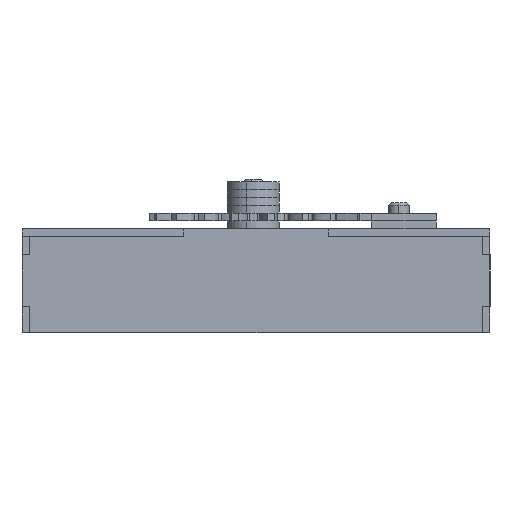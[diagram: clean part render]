
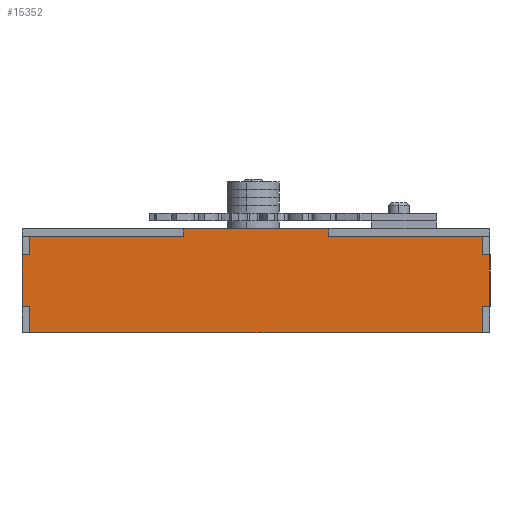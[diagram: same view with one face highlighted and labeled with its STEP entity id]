
A CAD part, left-side view. The second image highlights one B-rep face of the part: STEP entity #15352.
In plain terms, the highlighted planar face has unit normal (-1, 0, 0).
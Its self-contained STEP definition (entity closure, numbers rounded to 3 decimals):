
#1253 = DIRECTION ( 'NONE',  ( 1., 0., 0. ) ) ;
#1259 = VECTOR ( 'NONE', #12681, 1000. ) ;
#1416 = ORIENTED_EDGE ( 'NONE', *, *, #17988, .T. ) ;
#1645 = VERTEX_POINT ( 'NONE', #5310 ) ;
#1707 = EDGE_CURVE ( 'NONE', #21554, #15359, #3293, .T. ) ;
#1826 = DIRECTION ( 'NONE',  ( 0., 0., 1. ) ) ;
#1993 = DIRECTION ( 'NONE',  ( 0., 0., -1. ) ) ;
#2099 = CARTESIAN_POINT ( 'NONE',  ( 0., -10., -87. ) ) ;
#2264 = LINE ( 'NONE', #18979, #9011 ) ;
#2968 = CARTESIAN_POINT ( 'NONE',  ( 0., 17., 87. ) ) ;
#3044 = EDGE_CURVE ( 'NONE', #12060, #1645, #20022, .T. ) ;
#3293 = LINE ( 'NONE', #2968, #3297 ) ;
#3297 = VECTOR ( 'NONE', #27030, 1000. ) ;
#3551 = CARTESIAN_POINT ( 'NONE',  ( 0., 10., -90. ) ) ;
#3733 = VERTEX_POINT ( 'NONE', #22876 ) ;
#3934 = CARTESIAN_POINT ( 'NONE',  ( 0., 20., 90. ) ) ;
#4026 = VECTOR ( 'NONE', #1993, 1000. ) ;
#4265 = VERTEX_POINT ( 'NONE', #15945 ) ;
#4627 = EDGE_CURVE ( 'NONE', #3733, #4265, #20767, .T. ) ;
#4768 = CARTESIAN_POINT ( 'NONE',  ( 0., 20., 28. ) ) ;
#5164 = ORIENTED_EDGE ( 'NONE', *, *, #23201, .F. ) ;
#5310 = CARTESIAN_POINT ( 'NONE',  ( 0., 10., -87. ) ) ;
#5318 = ORIENTED_EDGE ( 'NONE', *, *, #7070, .F. ) ;
#5624 = CARTESIAN_POINT ( 'NONE',  ( 0., 0., 0. ) ) ;
#5674 = CARTESIAN_POINT ( 'NONE',  ( 0., -20., 87. ) ) ;
#5759 = EDGE_CURVE ( 'NONE', #15211, #18779, #18542, .T. ) ;
#5982 = LINE ( 'NONE', #24764, #13204 ) ;
#6158 = EDGE_CURVE ( 'NONE', #14215, #15211, #9287, .T. ) ;
#6221 = EDGE_LOOP ( 'NONE', ( #11505, #8328, #5318, #1416, #16691, #8555, #17905, #5164, #30270, #25652, #25823, #22655, #15977, #19436, #17862, #17474 ) ) ;
#6272 = LINE ( 'NONE', #3934, #27114 ) ;
#6467 = CARTESIAN_POINT ( 'NONE',  ( 0., 17., -28. ) ) ;
#6526 = VECTOR ( 'NONE', #29085, 1000. ) ;
#6647 = VECTOR ( 'NONE', #23739, 1000. ) ;
#7070 = EDGE_CURVE ( 'NONE', #9302, #20603, #2264, .T. ) ;
#7452 = DIRECTION ( 'NONE',  ( 0., 1., 0. ) ) ;
#8328 = ORIENTED_EDGE ( 'NONE', *, *, #30075, .T. ) ;
#8555 = ORIENTED_EDGE ( 'NONE', *, *, #3044, .T. ) ;
#9011 = VECTOR ( 'NONE', #12378, 1000. ) ;
#9099 = CARTESIAN_POINT ( 'NONE',  ( 0., -10., -90. ) ) ;
#9287 = LINE ( 'NONE', #16918, #21969 ) ;
#9302 = VERTEX_POINT ( 'NONE', #10719 ) ;
#10317 = CARTESIAN_POINT ( 'NONE',  ( 0., -20., -87. ) ) ;
#10719 = CARTESIAN_POINT ( 'NONE',  ( 0., 20., -28. ) ) ;
#10739 = DIRECTION ( 'NONE',  ( 0., 0., -1. ) ) ;
#11064 = EDGE_CURVE ( 'NONE', #3733, #18779, #6272, .T. ) ;
#11505 = ORIENTED_EDGE ( 'NONE', *, *, #1707, .T. ) ;
#11535 = EDGE_CURVE ( 'NONE', #4265, #21554, #12444, .T. ) ;
#11973 = LINE ( 'NONE', #30915, #6647 ) ;
#12060 = VERTEX_POINT ( 'NONE', #13277 ) ;
#12155 = CARTESIAN_POINT ( 'NONE',  ( 0., 17., 87. ) ) ;
#12189 = VECTOR ( 'NONE', #10739, 1000. ) ;
#12343 = EDGE_CURVE ( 'NONE', #1645, #17432, #24953, .T. ) ;
#12378 = DIRECTION ( 'NONE',  ( 0., 0., 1. ) ) ;
#12444 = LINE ( 'NONE', #12155, #18672 ) ;
#12612 = LINE ( 'NONE', #26284, #20064 ) ;
#12663 = FACE_OUTER_BOUND ( 'NONE', #6221, .T. ) ;
#12681 = DIRECTION ( 'NONE',  ( 0., -1., 0. ) ) ;
#12774 = DIRECTION ( 'NONE',  ( 0., -1., 0. ) ) ;
#12868 = CARTESIAN_POINT ( 'NONE',  ( 0., -10., 87. ) ) ;
#12954 = VERTEX_POINT ( 'NONE', #2099 ) ;
#13204 = VECTOR ( 'NONE', #18025, 1000. ) ;
#13277 = CARTESIAN_POINT ( 'NONE',  ( 0., 17., -87. ) ) ;
#13447 = DIRECTION ( 'NONE',  ( 0., -1., 0. ) ) ;
#13483 = CARTESIAN_POINT ( 'NONE',  ( 0., 10., -90. ) ) ;
#13761 = EDGE_CURVE ( 'NONE', #12954, #26671, #26054, .T. ) ;
#14215 = VERTEX_POINT ( 'NONE', #5674 ) ;
#15211 = VERTEX_POINT ( 'NONE', #12868 ) ;
#15352 = ADVANCED_FACE ( 'NONE', ( #12663 ), #24538, .F. ) ;
#15359 = VERTEX_POINT ( 'NONE', #29854 ) ;
#15945 = CARTESIAN_POINT ( 'NONE',  ( 0., 10., 87. ) ) ;
#15977 = ORIENTED_EDGE ( 'NONE', *, *, #5759, .T. ) ;
#16508 = CARTESIAN_POINT ( 'NONE',  ( 0., -10., 90. ) ) ;
#16691 = ORIENTED_EDGE ( 'NONE', *, *, #21980, .T. ) ;
#16918 = CARTESIAN_POINT ( 'NONE',  ( 0., -20., 87. ) ) ;
#17432 = VERTEX_POINT ( 'NONE', #13483 ) ;
#17474 = ORIENTED_EDGE ( 'NONE', *, *, #11535, .T. ) ;
#17662 = VECTOR ( 'NONE', #29601, 1000. ) ;
#17710 = CARTESIAN_POINT ( 'NONE',  ( 0., -10., -90. ) ) ;
#17821 = EDGE_CURVE ( 'NONE', #23102, #12954, #22535, .T. ) ;
#17862 = ORIENTED_EDGE ( 'NONE', *, *, #4627, .T. ) ;
#17905 = ORIENTED_EDGE ( 'NONE', *, *, #12343, .T. ) ;
#17988 = EDGE_CURVE ( 'NONE', #9302, #29684, #12612, .T. ) ;
#18024 = CARTESIAN_POINT ( 'NONE',  ( 0., 20., 28. ) ) ;
#18025 = DIRECTION ( 'NONE',  ( 0., 0., -1. ) ) ;
#18542 = LINE ( 'NONE', #16508, #27504 ) ;
#18544 = VECTOR ( 'NONE', #27233, 1000. ) ;
#18672 = VECTOR ( 'NONE', #7452, 1000. ) ;
#18779 = VERTEX_POINT ( 'NONE', #20925 ) ;
#18979 = CARTESIAN_POINT ( 'NONE',  ( 0., 20., 90. ) ) ;
#19332 = CARTESIAN_POINT ( 'NONE',  ( 0., -20., -87. ) ) ;
#19436 = ORIENTED_EDGE ( 'NONE', *, *, #11064, .F. ) ;
#19564 = CARTESIAN_POINT ( 'NONE',  ( 0., 20., -90. ) ) ;
#20022 = LINE ( 'NONE', #24726, #1259 ) ;
#20064 = VECTOR ( 'NONE', #12774, 1000. ) ;
#20525 = LINE ( 'NONE', #18024, #17662 ) ;
#20603 = VERTEX_POINT ( 'NONE', #4768 ) ;
#20767 = LINE ( 'NONE', #25759, #4026 ) ;
#20925 = CARTESIAN_POINT ( 'NONE',  ( 0., -10., 90. ) ) ;
#21554 = VERTEX_POINT ( 'NONE', #27011 ) ;
#21963 = AXIS2_PLACEMENT_3D ( 'NONE', #5624, #1253, #27200 ) ;
#21969 = VECTOR ( 'NONE', #26315, 1000. ) ;
#21980 = EDGE_CURVE ( 'NONE', #29684, #12060, #5982, .T. ) ;
#22535 = LINE ( 'NONE', #17710, #18544 ) ;
#22655 = ORIENTED_EDGE ( 'NONE', *, *, #6158, .T. ) ;
#22876 = CARTESIAN_POINT ( 'NONE',  ( 0., 10., 90. ) ) ;
#23102 = VERTEX_POINT ( 'NONE', #9099 ) ;
#23201 = EDGE_CURVE ( 'NONE', #23102, #17432, #24252, .T. ) ;
#23732 = DIRECTION ( 'NONE',  ( 0., -1., 0. ) ) ;
#23739 = DIRECTION ( 'NONE',  ( 0., 0., -1. ) ) ;
#24252 = LINE ( 'NONE', #19564, #6526 ) ;
#24538 = PLANE ( 'NONE',  #21963 ) ;
#24726 = CARTESIAN_POINT ( 'NONE',  ( 0., 17., -87. ) ) ;
#24764 = CARTESIAN_POINT ( 'NONE',  ( 0., 17., -87. ) ) ;
#24953 = LINE ( 'NONE', #3551, #12189 ) ;
#25429 = VECTOR ( 'NONE', #23732, 1000. ) ;
#25652 = ORIENTED_EDGE ( 'NONE', *, *, #13761, .T. ) ;
#25759 = CARTESIAN_POINT ( 'NONE',  ( 0., 10., 90. ) ) ;
#25823 = ORIENTED_EDGE ( 'NONE', *, *, #29303, .F. ) ;
#26054 = LINE ( 'NONE', #19332, #25429 ) ;
#26284 = CARTESIAN_POINT ( 'NONE',  ( 0., 20., -28. ) ) ;
#26315 = DIRECTION ( 'NONE',  ( 0., 1., 0. ) ) ;
#26671 = VERTEX_POINT ( 'NONE', #10317 ) ;
#27011 = CARTESIAN_POINT ( 'NONE',  ( 0., 17., 87. ) ) ;
#27030 = DIRECTION ( 'NONE',  ( 0., 0., -1. ) ) ;
#27114 = VECTOR ( 'NONE', #13447, 1000. ) ;
#27200 = DIRECTION ( 'NONE',  ( 0., 0., -1. ) ) ;
#27233 = DIRECTION ( 'NONE',  ( 0., 0., 1. ) ) ;
#27504 = VECTOR ( 'NONE', #1826, 1000. ) ;
#29085 = DIRECTION ( 'NONE',  ( 0., 1., 0. ) ) ;
#29303 = EDGE_CURVE ( 'NONE', #14215, #26671, #11973, .T. ) ;
#29601 = DIRECTION ( 'NONE',  ( 0., 1., 0. ) ) ;
#29684 = VERTEX_POINT ( 'NONE', #6467 ) ;
#29854 = CARTESIAN_POINT ( 'NONE',  ( 0., 17., 28. ) ) ;
#30075 = EDGE_CURVE ( 'NONE', #15359, #20603, #20525, .T. ) ;
#30270 = ORIENTED_EDGE ( 'NONE', *, *, #17821, .T. ) ;
#30915 = CARTESIAN_POINT ( 'NONE',  ( 0., -20., 90. ) ) ;
